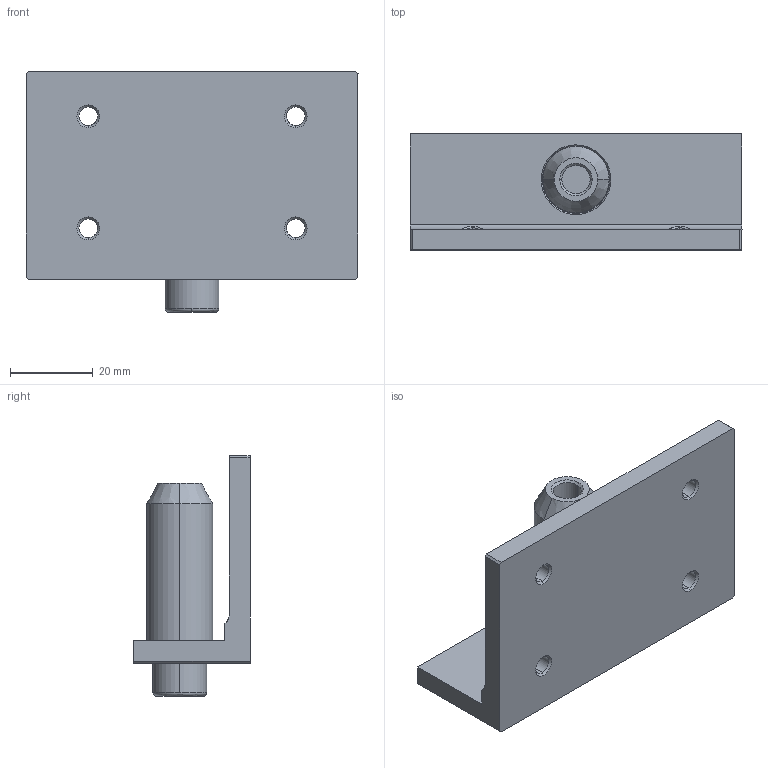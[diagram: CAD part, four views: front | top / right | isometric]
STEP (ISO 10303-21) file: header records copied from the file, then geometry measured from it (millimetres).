
FILE_DESCRIPTION (( 'STEP AP203' ), '1' );
FILE_NAME ('QCL15G-Y.STEP', '2024-03-20T05:59:11', ( '微软用户' ), ( '微软中国' ), 'SwSTEP 2.0', 'SolidWorks 2018', '' );
FILE_SCHEMA (( 'CONFIG_CONTROL_DESIGN' ));
Length unit declared in the file: millimetre
Products named in the file (1): QCL15G-Y
Bounding box: 80 x 28 x 58 mm (x, y, z)
Volume: 37291.9 mm3; surface area: 17738.1 mm2
Topology: 3 solids, 3 shells, 207 faces, 449 edges, 248 vertices
Faces by surface type: cone 104, cylinder 59, plane 32, bspline 12
Entity records: 6362 total; most frequent: CARTESIAN_POINT 1789, DIRECTION 990, ORIENTED_EDGE 894, EDGE_CURVE 447, AXIS2_PLACEMENT_3D 380, VERTEX_POINT 248, VECTOR 230, LINE 230
